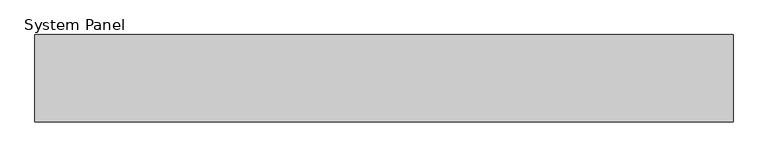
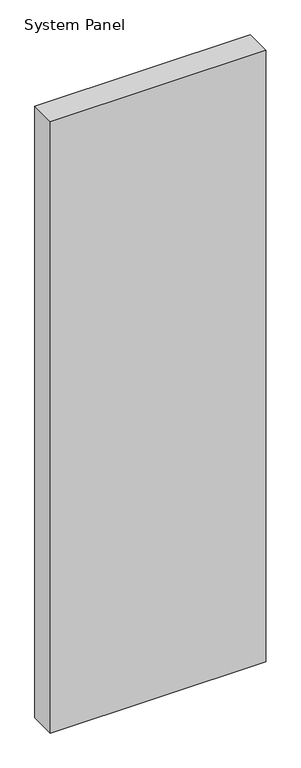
"""IFC4 building model written with IfcOpenShell, lengths in millimetres: plate geometry, System Panel : Equitilt 150mm Vertical - Plain RHEA - MW."""

from ifc_helpers import new_model, si_unit, origin, origin_with_axes, place, context, project, spatial, polyline, outline, extrude, source, transform, mapped, element, save


def system_panel_36b0335f(model_context):
    return source(origin(), model_context, "Body", "SweptSolid", [
        extrude(outline(polyline([(600.0, 0.0), (-600.0, 0.0), (-600.0, 150.0), (600.0, 150.0), (600.0, 0.0)])), origin_with_axes(), (0.0, 0.0, 1.0), 3600.0),
    ])


if __name__ == "__main__":
    model = new_model("IFC4")
    model_context = context("Model", 3, world=origin())
    ifc_project = project(units=[si_unit("LENGTHUNIT", "METRE", prefix="MILLI")], contexts=[model_context])
    site = spatial("IfcSite", under=ifc_project)
    building = spatial("IfcBuilding", under=site)
    placement = place(None, origin())
    system_panel_shape = system_panel_36b0335f(model_context)
    element("IfcPlate", 1, ObjectType="System Panel : Equitilt 150mm Vertical - Plain RHEA - MW", at=placement, inside=building, context=model_context, shape_type="MappedRepresentation", body=[
        mapped(system_panel_shape, transform((0.0, 0.0, 0.0), x_axis=(1.0, 0.0, 0.0), y_axis=(0.0, 1.0, 0.0), z_axis=(0.0, 0.0, 1.0))),
    ])
    save(model, "model.ifc")
